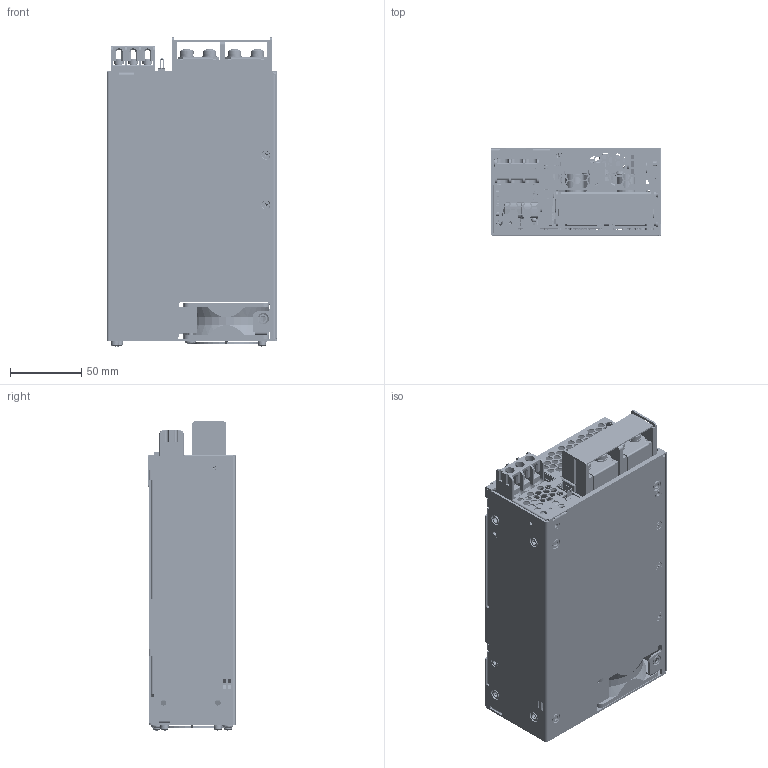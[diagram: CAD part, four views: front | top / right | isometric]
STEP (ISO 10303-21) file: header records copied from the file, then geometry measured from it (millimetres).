
FILE_DESCRIPTION (( 'STEP AP203' ), '1' );
FILE_NAME ('SWS600L.STEP', '2008-07-16T06:55:05', ( ' ' ), ( '' ), 'SwSTEP 2.0', 'SolidWorks 2008', '' );
FILE_SCHEMA (( 'CONFIG_CONTROL_DESIGN' ));
Products named in the file (119): outputterminal; T6968(BODY)_??????; CCB059-ASSEM_默认; CCB059_默认; bc_NETSUwire; X-CAP_默认; JQ-ST_060711_6; OPDAssem; 325015_P37R5; CA757-32-04-A; newTO3P_SWS600L; CA757-32-14_默认; XCA7573501_wire; xmer_copperbur-b; B_B-XH-A_060703_6; CCB060-ASSEM_默认; CCB060_默认; JQ-ST_060711_9; S__B-PHDSS_08; S__B-PHDSS_10; TO3P-SWS600L2_??????; SEMS-M3_x8; 8000-4-152; TO3P_SWS600L; TO-220AB_FORM_051215_??????; A23201_默认; No217; 8000-4-150_默认; T7273-060509_??????; CA100-32-15_默认; XCA75731; EI16-10-N_Cut-5PIN; EI16-Z_E; DE1E3KXxxxxJ4_152M; BD50_??????; Cross Recessed Pan Head Screw_JIS_JIS B 1111 Cross recessed pan head screw - M4 x 6 - Z --6C; CA757-33-12-A_默认; DE1E3KXxxxx_152M; CA757-32-01; CA7573201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
Assembly tree (225 placements, depth 5):
  SWS600L
    M3sems  x7
      JIS B 1256 Small circular 3
      JIS B 1111 Cross recessed pan head screw - M3 x 6 - Z --6N
      JIS B 1251 No.2 3
    CCB061-ASSEMb_默认
      A23201_默认
        A2323521_wire
        No217
        AHD-26_??????
      XCA75731
        EI16-Z_E
        EI16-Z_Cu
        EI16-Z_I
        EI16-10-N_Cut-5PIN
      Cross Recessed Pan Head Screw_JIS_JIS B 1111 Cross recessed pan head screw - M4 x 6 - Z --6C  x2
      CA757-33-12-A_默认
      MOS2B_fold_??????  x3
      B_B-XH-A_060703_6  x2
      LGYxxxEL_熱解析F
      B_B-XH-A_060703_3  x3
      M3sems  x6
        JIS B 1256 Small circular 3
        JIS B 1111 Cross recessed pan head screw - M3 x 6 - Z --6N
        JIS B 1251 No.2 3
      JIS B 1111 Cross recessed pan head screw - M3 x 6 - Z --6N
      JIS B 1251 No.2 3  x5
      diode-fin-assem_默认
        M3sems  x2
          JIS B 1256 Small circular 3
          JIS B 1111 Cross recessed pan head screw - M3 x 6 - Z --6N
          JIS B 1251 No.2 3
        TO3P_SWS600L
        TO-220AB_FORM_051215_??????
        CA757-32-08_默认
        8000-4-152
      XCA7573521_WIRE
        XCA7573521_wire
        No217
        AHD-26_??????
      CCB065-ASSEM_默认
        1_默认  x3
        T7273-060509_??????
        8000-4-150_默认
        CA100-32-15_默认
        CCB065_默认
      MDX22W_105
      MMHF0630K_333  x6
      B_B-XH-A_060703_9
      79107_默认
      A53K-100J_??????
      CA757-32-15-A_默认
      DE1E3KXxxxxJ4_152M  x2
      x''mer-b
        BEER35-1112CPFR
        XCA7573501_wire
        EER35-Z  x2
        xmer_copperbur-b
      CA757-32-12_默认
      BD50_??????
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Bounding box: 120 x 61.2 x 216.95 mm (x, y, z)
Volume: 538008.2 mm3; surface area: 640105.7 mm2
Topology: 245 solids, 245 shells, 13003 faces, 33304 edges, 21150 vertices
Faces by surface type: plane 7214, cylinder 3864, bspline 630, cone 576, torus 557, sphere 162
Entity records: 330942 total; most frequent: CARTESIAN_POINT 83616, ORIENTED_EDGE 48204, DIRECTION 47294, EDGE_CURVE 24102, VECTOR 16018, LINE 16018, AXIS2_PLACEMENT_3D 15638, VERTEX_POINT 15553
